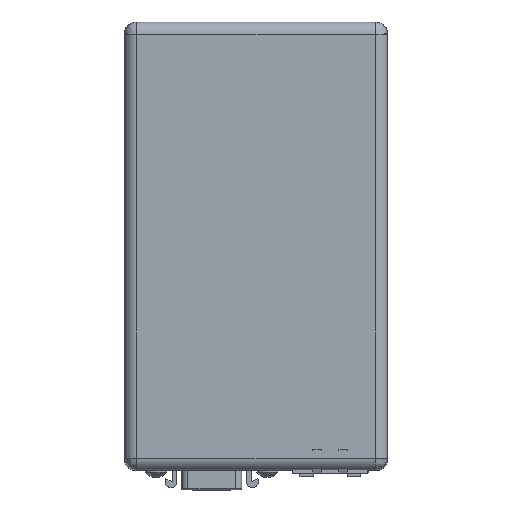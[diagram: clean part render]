
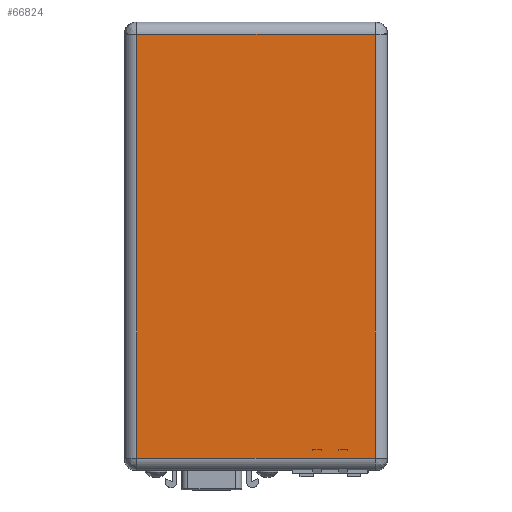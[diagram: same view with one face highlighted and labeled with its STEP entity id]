
A CAD part, top view. The second image highlights one B-rep face of the part: STEP entity #66824.
In plain terms, the highlighted planar face has unit normal (0, 0, 1).
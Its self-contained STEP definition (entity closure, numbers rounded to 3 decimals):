
#550 = ORIENTED_EDGE ( 'NONE', *, *, #13818, .T. ) ;
#2271 = LINE ( 'NONE', #162544, #114678 ) ;
#6894 = CARTESIAN_POINT ( 'NONE',  ( 25.298, -71.018, 15.3 ) ) ;
#13818 = EDGE_CURVE ( 'NONE', #58631, #164053, #114034, .T. ) ;
#25892 = EDGE_LOOP ( 'NONE', ( #153763, #149057, #109904, #550 ) ) ;
#38870 = FACE_OUTER_BOUND ( 'NONE', #25892, .T. ) ;
#43859 = EDGE_CURVE ( 'NONE', #73684, #58631, #2271, .T. ) ;
#57665 = LINE ( 'NONE', #63868, #96562 ) ;
#58631 = VERTEX_POINT ( 'NONE', #127553 ) ;
#63868 = CARTESIAN_POINT ( 'NONE',  ( 25.298, -71.018, 15.3 ) ) ;
#66824 = ADVANCED_FACE ( 'NONE', ( #38870 ), #150965, .T. ) ;
#68631 = VECTOR ( 'NONE', #168256, 1000. ) ;
#73684 = VERTEX_POINT ( 'NONE', #6894 ) ;
#87378 = CARTESIAN_POINT ( 'NONE',  ( -25.298, 18.948, 15.3 ) ) ;
#88906 = AXIS2_PLACEMENT_3D ( 'NONE', #139268, #139223, #139052 ) ;
#96562 = VECTOR ( 'NONE', #150881, 1000. ) ;
#109818 = EDGE_CURVE ( 'NONE', #136199, #73684, #57665, .T. ) ;
#109904 = ORIENTED_EDGE ( 'NONE', *, *, #43859, .T. ) ;
#114034 = LINE ( 'NONE', #172379, #127679 ) ;
#114678 = VECTOR ( 'NONE', #162330, 1000. ) ;
#124257 = CARTESIAN_POINT ( 'NONE',  ( -25.298, 18.948, 15.3 ) ) ;
#127553 = CARTESIAN_POINT ( 'NONE',  ( 25.298, 18.948, 15.3 ) ) ;
#127679 = VECTOR ( 'NONE', #172777, 1000. ) ;
#136199 = VERTEX_POINT ( 'NONE', #170259 ) ;
#139052 = DIRECTION ( 'NONE',  ( 1., 0., 0. ) ) ;
#139223 = DIRECTION ( 'NONE',  ( 0., 0., 1. ) ) ;
#139268 = CARTESIAN_POINT ( 'NONE',  ( 25.298, 18.948, 15.3 ) ) ;
#149057 = ORIENTED_EDGE ( 'NONE', *, *, #109818, .T. ) ;
#150881 = DIRECTION ( 'NONE',  ( 1., 0., 0. ) ) ;
#150965 = PLANE ( 'NONE',  #88906 ) ;
#153763 = ORIENTED_EDGE ( 'NONE', *, *, #167071, .T. ) ;
#162330 = DIRECTION ( 'NONE',  ( 0., 1., 0. ) ) ;
#162544 = CARTESIAN_POINT ( 'NONE',  ( 25.298, 18.948, 15.3 ) ) ;
#164053 = VERTEX_POINT ( 'NONE', #87378 ) ;
#167071 = EDGE_CURVE ( 'NONE', #164053, #136199, #179492, .T. ) ;
#168256 = DIRECTION ( 'NONE',  ( 0., -1., 0. ) ) ;
#170259 = CARTESIAN_POINT ( 'NONE',  ( -25.298, -71.018, 15.3 ) ) ;
#172379 = CARTESIAN_POINT ( 'NONE',  ( 25.298, 18.948, 15.3 ) ) ;
#172777 = DIRECTION ( 'NONE',  ( -1., 0., 0. ) ) ;
#179492 = LINE ( 'NONE', #124257, #68631 ) ;
